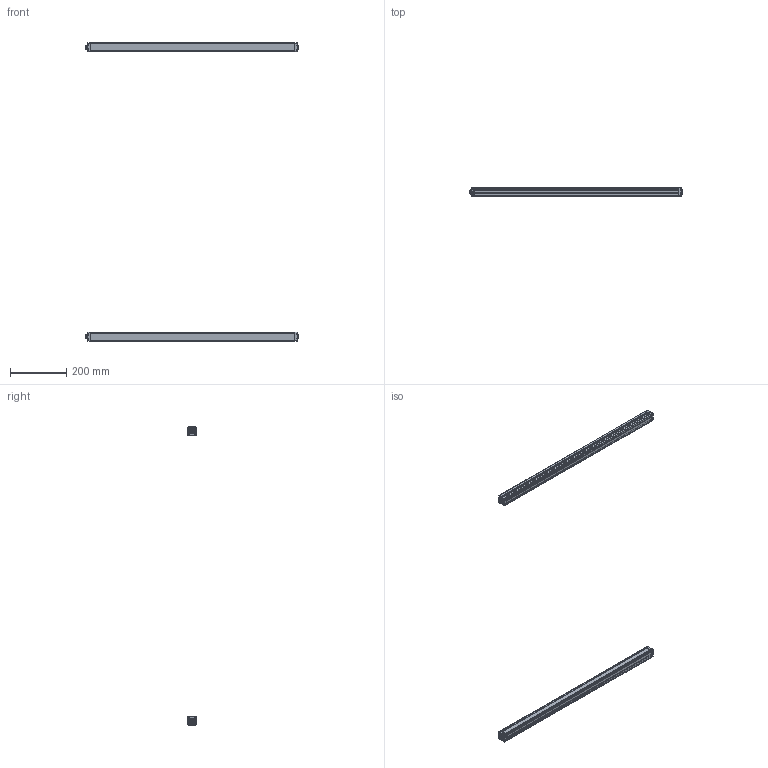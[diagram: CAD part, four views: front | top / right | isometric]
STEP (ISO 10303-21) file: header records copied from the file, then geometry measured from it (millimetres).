
FILE_DESCRIPTION(/* description */ (''),/* implementation_level */ '2;1');
FILE_NAME(/* name */ 'THS10-70.stp',/* time_stamp */ '2023-08-09T16:23:39+08:00',/* author */ (''),/* organization */ (''),/* preprocessor_version */ 'ST-DEVELOPER v16',/* originating_system */ 'SIEMENS PLM Software NX 11.0',/* authorisation */ '');
FILE_SCHEMA (('AP203_CONFIGURATION_CONTROLLED_3D_DESIGN_OF_MECHANICAL_PARTS_AND_ASSEMBLIES_MIM_LF { 1 0 10303 403 2 1 2}'));
Length unit declared in the file: millimetre
Products named in the file (10): 16; 14; 12; 13; 102; 101; 11; ASM0002_ASM; THS10-100; 0
Assembly tree (10 placements, depth 4):
  0
    THS10-100  x2
      11
      101
      102
      13
      12
      ASM0002_ASM
        14
        16
Bounding box: 757 x 30.3 x 1058.6 mm (x, y, z)
Volume: 458922.9 mm3; surface area: 505233 mm2
Topology: 10 solids, 14 shells, 1080 faces, 3010 edges, 1986 vertices
Faces by surface type: plane 764, cylinder 288, cone 28
Entity records: 18593 total; most frequent: CARTESIAN_POINT 3152, ORIENTED_EDGE 3006, DIRECTION 2923, EDGE_CURVE 1505, LINE 1173, VECTOR 1173, VERTEX_POINT 993, AXIS2_PLACEMENT_3D 875
